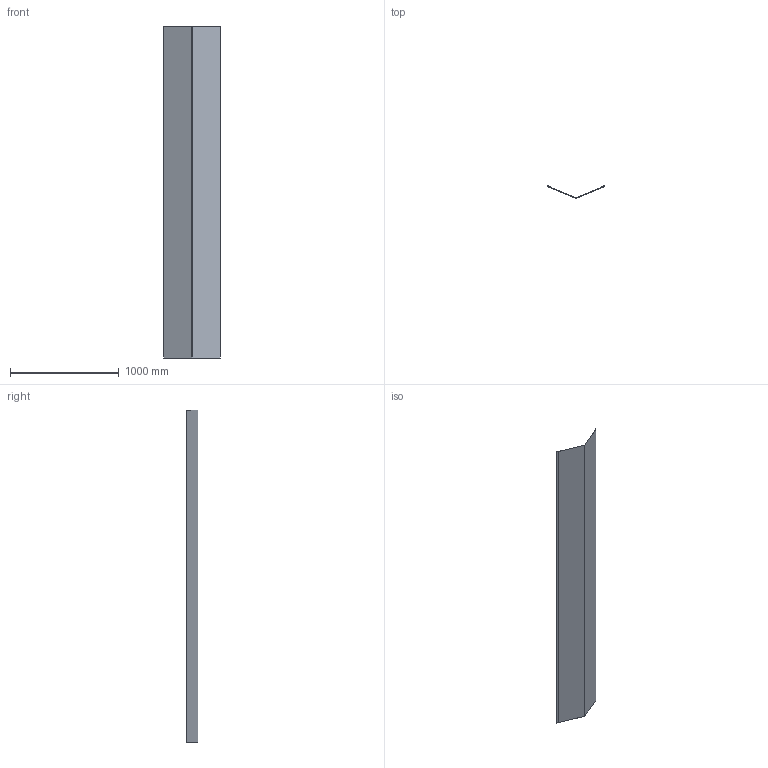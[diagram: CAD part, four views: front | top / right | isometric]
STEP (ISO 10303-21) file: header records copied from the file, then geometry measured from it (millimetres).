
FILE_DESCRIPTION (( 'STEP AP203' ), '1' );
FILE_NAME ('M80AB.STEP', '2018-06-15T19:54:25', ( 'Michael Moliner' ), ( '' ), 'SwSTEP 2.0', 'SolidWorks 2018', '' );
FILE_SCHEMA (( 'CONFIG_CONTROL_DESIGN' ));
Length unit declared in the file: inch
Products named in the file (2): M80AB
Bounding box: 516.68 x 109.66 x 3048 mm (x, y, z)
Volume: 940296.1 mm3; surface area: 3705667 mm2
Topology: 1 solids, 1 shells, 28 faces, 78 edges, 52 vertices
Faces by surface type: plane 16, cylinder 12
Entity records: 1063 total; most frequent: DIRECTION 162, CARTESIAN_POINT 160, ORIENTED_EDGE 156, EDGE_CURVE 78, AXIS2_PLACEMENT_3D 54, VECTOR 54, LINE 54, VERTEX_POINT 52
